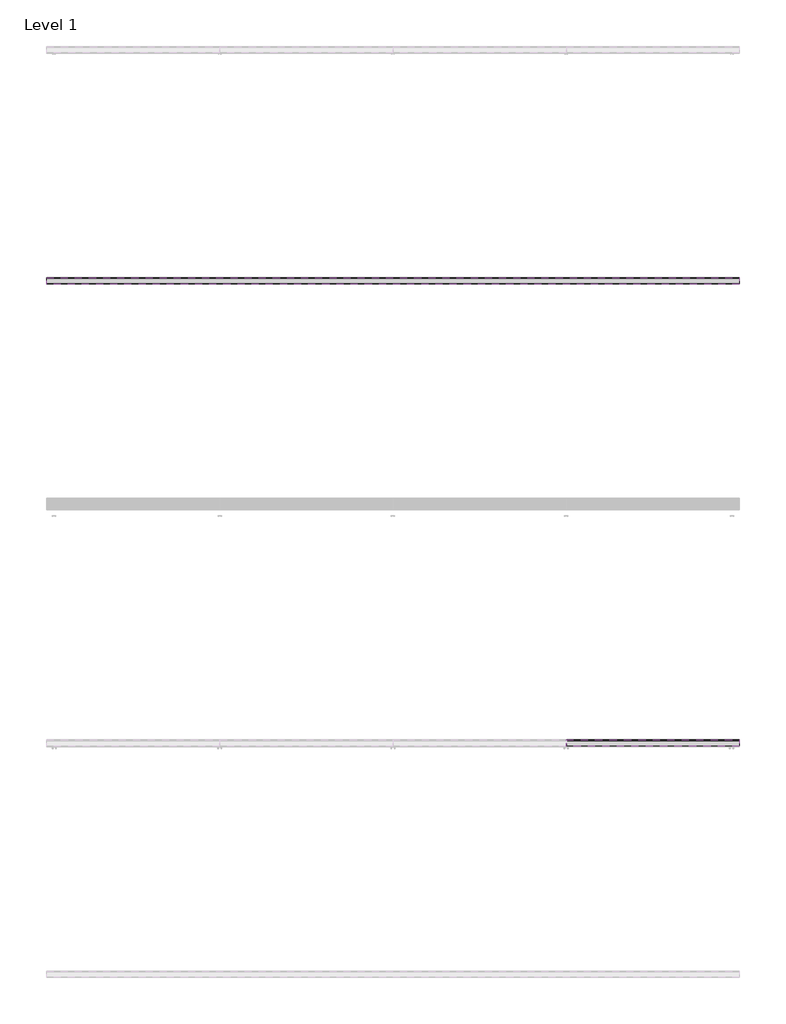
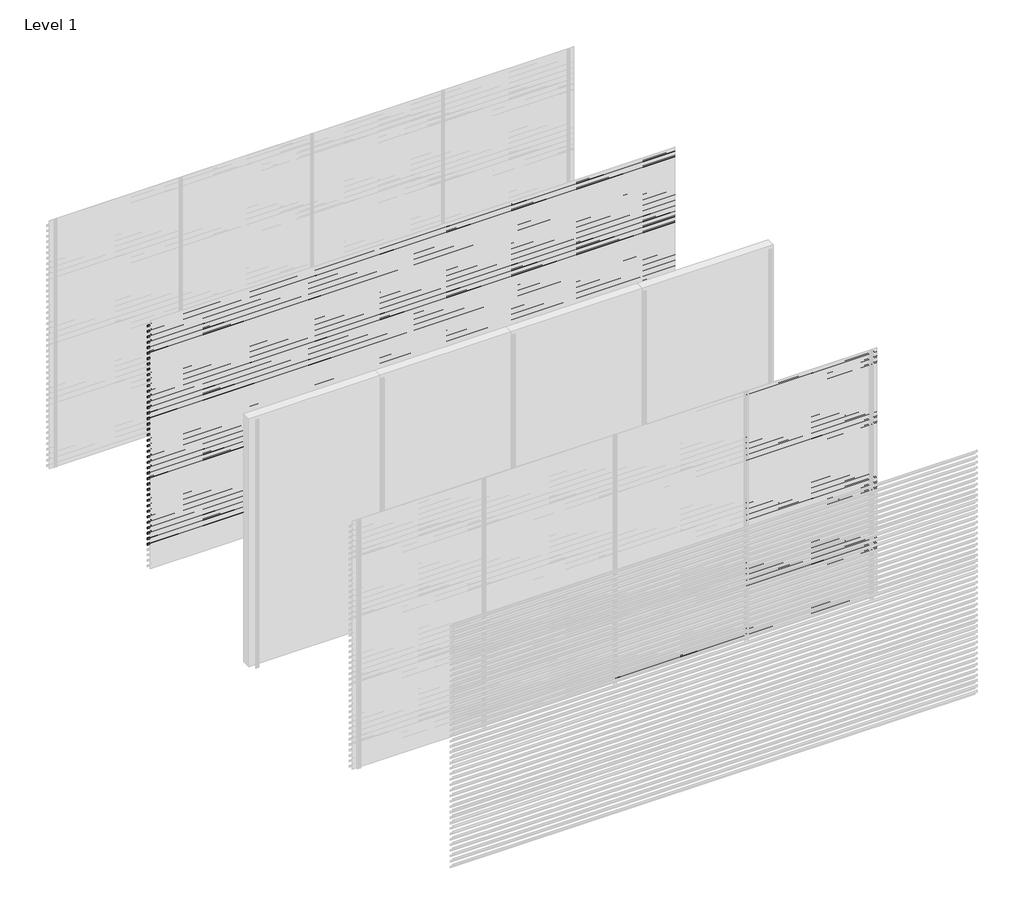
# One storey, part 23 of 25: 87 proxies.
"""IFC4 building model written with IfcOpenShell, lengths in millimetres."""

from ifc_helpers import new_model, si_unit, frame, origin, place, context, project, spatial, polyline, outline, extrude, element, save

model = new_model("IFC4")

# Units and contexts
model_context = context("Model", 3, world=origin())
ifc_project = project(units=[si_unit("LENGTHUNIT", "METRE", prefix="MILLI")], contexts=[model_context])

# Site, building, storey
site = spatial("IfcSite", under=ifc_project)
building = spatial("IfcBuilding", under=site)
storey = spatial("IfcBuildingStorey", under=building, Name="Level 1", Elevation=0.0)

# Proxies
placement = place(None, origin())
element("IfcBuildingElementProxy", 1, Name="Wall Sweeps", at=placement, inside=storey, context=model_context, shape_type="SweptSolid", body=[
    extrude(outline(polyline([(-1943.0, 2913.5), (-1943.0, 2893.5), (-1944.25, 2894.2216933), (-1944.25, 2912.7872415), (-1998.0, 2950.3158044), (-1998.0, 2970.0), (-1996.75, 2970.0), (-1996.75, 2951.0285629), (-1943.0, 2913.5)])), frame((0.0, 0.0, 0.0), z_axis=(1.0, 0.0, 0.0), x_axis=(0.0, 1.0, 0.0)), (0.0, 0.0, 1.0), 6000.0),
])
element("IfcBuildingElementProxy", 2, Name="Wall Sweeps", at=placement, inside=storey, context=model_context, shape_type="SweptSolid", body=[
    extrude(outline(polyline([(-1943.0, 2847.5), (-1943.0, 2827.5), (-1944.25, 2828.2216933), (-1944.25, 2846.7872415), (-1998.0, 2884.3158044), (-1998.0, 2904.0), (-1996.75, 2904.0), (-1996.75, 2885.0285629), (-1943.0, 2847.5)])), frame((0.0, 0.0, 0.0), z_axis=(1.0, 0.0, 0.0), x_axis=(0.0, 1.0, 0.0)), (0.0, 0.0, 1.0), 6000.0),
])
element("IfcBuildingElementProxy", 3, Name="Wall Sweeps", at=placement, inside=storey, context=model_context, shape_type="SweptSolid", body=[
    extrude(outline(polyline([(-1943.0, 2781.5), (-1943.0, 2761.5), (-1944.25, 2762.2216933), (-1944.25, 2780.7872415), (-1998.0, 2818.3158044), (-1998.0, 2838.0), (-1996.75, 2838.0), (-1996.75, 2819.0285629), (-1943.0, 2781.5)])), frame((0.0, 0.0, 0.0), z_axis=(1.0, 0.0, 0.0), x_axis=(0.0, 1.0, 0.0)), (0.0, 0.0, 1.0), 6000.0),
])
element("IfcBuildingElementProxy", 4, Name="Wall Sweeps", at=placement, inside=storey, context=model_context, shape_type="SweptSolid", body=[
    extrude(outline(polyline([(-1943.0, 2715.5), (-1943.0, 2695.5), (-1944.25, 2696.2216933), (-1944.25, 2714.7872415), (-1998.0, 2752.3158044), (-1998.0, 2772.0), (-1996.75, 2772.0), (-1996.75, 2753.0285629), (-1943.0, 2715.5)])), frame((0.0, 0.0, 0.0), z_axis=(1.0, 0.0, 0.0), x_axis=(0.0, 1.0, 0.0)), (0.0, 0.0, 1.0), 6000.0),
])
element("IfcBuildingElementProxy", 5, Name="Wall Sweeps", at=placement, inside=storey, context=model_context, shape_type="SweptSolid", body=[
    extrude(outline(polyline([(-1943.0, 2649.5), (-1943.0, 2629.5), (-1944.25, 2630.2216933), (-1944.25, 2648.7872415), (-1998.0, 2686.3158044), (-1998.0, 2706.0), (-1996.75, 2706.0), (-1996.75, 2687.0285629), (-1943.0, 2649.5)])), frame((0.0, 0.0, 0.0), z_axis=(1.0, 0.0, 0.0), x_axis=(0.0, 1.0, 0.0)), (0.0, 0.0, 1.0), 6000.0),
])
element("IfcBuildingElementProxy", 6, Name="Wall Sweeps", at=placement, inside=storey, context=model_context, shape_type="SweptSolid", body=[
    extrude(outline(polyline([(-1943.0, 2583.5), (-1943.0, 2563.5), (-1944.25, 2564.2216933), (-1944.25, 2582.7872415), (-1998.0, 2620.3158044), (-1998.0, 2640.0), (-1996.75, 2640.0), (-1996.75, 2621.0285629), (-1943.0, 2583.5)])), frame((0.0, 0.0, 0.0), z_axis=(1.0, 0.0, 0.0), x_axis=(0.0, 1.0, 0.0)), (0.0, 0.0, 1.0), 6000.0),
])
element("IfcBuildingElementProxy", 7, Name="Wall Sweeps", at=placement, inside=storey, context=model_context, shape_type="SweptSolid", body=[
    extrude(outline(polyline([(-1943.0, 2517.5), (-1943.0, 2497.5), (-1944.25, 2498.2216933), (-1944.25, 2516.7872415), (-1998.0, 2554.3158044), (-1998.0, 2574.0), (-1996.75, 2574.0), (-1996.75, 2555.0285629), (-1943.0, 2517.5)])), frame((0.0, 0.0, 0.0), z_axis=(1.0, 0.0, 0.0), x_axis=(0.0, 1.0, 0.0)), (0.0, 0.0, 1.0), 6000.0),
])
element("IfcBuildingElementProxy", 8, Name="Wall Sweeps", at=placement, inside=storey, context=model_context, shape_type="SweptSolid", body=[
    extrude(outline(polyline([(-1943.0, 2451.5), (-1943.0, 2431.5), (-1944.25, 2432.2216933), (-1944.25, 2450.7872415), (-1998.0, 2488.3158044), (-1998.0, 2508.0), (-1996.75, 2508.0), (-1996.75, 2489.0285629), (-1943.0, 2451.5)])), frame((0.0, 0.0, 0.0), z_axis=(1.0, 0.0, 0.0), x_axis=(0.0, 1.0, 0.0)), (0.0, 0.0, 1.0), 6000.0),
])
element("IfcBuildingElementProxy", 9, Name="Wall Sweeps", at=placement, inside=storey, context=model_context, shape_type="SweptSolid", body=[
    extrude(outline(polyline([(-1943.0, 2385.5), (-1943.0, 2365.5), (-1944.25, 2366.2216933), (-1944.25, 2384.7872415), (-1998.0, 2422.3158044), (-1998.0, 2442.0), (-1996.75, 2442.0), (-1996.75, 2423.0285629), (-1943.0, 2385.5)])), frame((0.0, 0.0, 0.0), z_axis=(1.0, 0.0, 0.0), x_axis=(0.0, 1.0, 0.0)), (0.0, 0.0, 1.0), 6000.0),
])
element("IfcBuildingElementProxy", 10, Name="Wall Sweeps", at=placement, inside=storey, context=model_context, shape_type="SweptSolid", body=[
    extrude(outline(polyline([(-1943.0, 2319.5), (-1943.0, 2299.5), (-1944.25, 2300.2216933), (-1944.25, 2318.7872415), (-1998.0, 2356.3158044), (-1998.0, 2376.0), (-1996.75, 2376.0), (-1996.75, 2357.0285629), (-1943.0, 2319.5)])), frame((0.0, 0.0, 0.0), z_axis=(1.0, 0.0, 0.0), x_axis=(0.0, 1.0, 0.0)), (0.0, 0.0, 1.0), 6000.0),
])
element("IfcBuildingElementProxy", 11, Name="Wall Sweeps", at=placement, inside=storey, context=model_context, shape_type="SweptSolid", body=[
    extrude(outline(polyline([(-1943.0, 2253.5), (-1943.0, 2233.5), (-1944.25, 2234.2216933), (-1944.25, 2252.7872415), (-1998.0, 2290.3158044), (-1998.0, 2310.0), (-1996.75, 2310.0), (-1996.75, 2291.0285629), (-1943.0, 2253.5)])), frame((0.0, 0.0, 0.0), z_axis=(1.0, 0.0, 0.0), x_axis=(0.0, 1.0, 0.0)), (0.0, 0.0, 1.0), 6000.0),
])
element("IfcBuildingElementProxy", 12, Name="Wall Sweeps", at=placement, inside=storey, context=model_context, shape_type="SweptSolid", body=[
    extrude(outline(polyline([(-1943.0, 2187.5), (-1943.0, 2167.5), (-1944.25, 2168.2216933), (-1944.25, 2186.7872415), (-1998.0, 2224.3158044), (-1998.0, 2244.0), (-1996.75, 2244.0), (-1996.75, 2225.0285629), (-1943.0, 2187.5)])), frame((0.0, 0.0, 0.0), z_axis=(1.0, 0.0, 0.0), x_axis=(0.0, 1.0, 0.0)), (0.0, 0.0, 1.0), 6000.0),
])
element("IfcBuildingElementProxy", 13, Name="Wall Sweeps", at=placement, inside=storey, context=model_context, shape_type="SweptSolid", body=[
    extrude(outline(polyline([(-1943.0, 2121.5), (-1943.0, 2101.5), (-1944.25, 2102.2216933), (-1944.25, 2120.7872415), (-1998.0, 2158.3158044), (-1998.0, 2178.0), (-1996.75, 2178.0), (-1996.75, 2159.0285629), (-1943.0, 2121.5)])), frame((0.0, 0.0, 0.0), z_axis=(1.0, 0.0, 0.0), x_axis=(0.0, 1.0, 0.0)), (0.0, 0.0, 1.0), 6000.0),
])
element("IfcBuildingElementProxy", 14, Name="Wall Sweeps", at=placement, inside=storey, context=model_context, shape_type="SweptSolid", body=[
    extrude(outline(polyline([(-1943.0, 2055.5), (-1943.0, 2035.5), (-1944.25, 2036.2216933), (-1944.25, 2054.7872415), (-1998.0, 2092.3158044), (-1998.0, 2112.0), (-1996.75, 2112.0), (-1996.75, 2093.0285629), (-1943.0, 2055.5)])), frame((0.0, 0.0, 0.0), z_axis=(1.0, 0.0, 0.0), x_axis=(0.0, 1.0, 0.0)), (0.0, 0.0, 1.0), 6000.0),
])
element("IfcBuildingElementProxy", 15, Name="Wall Sweeps", at=placement, inside=storey, context=model_context, shape_type="SweptSolid", body=[
    extrude(outline(polyline([(-1943.0, 1989.5), (-1943.0, 1969.5), (-1944.25, 1970.2216933), (-1944.25, 1988.7872415), (-1998.0, 2026.3158044), (-1998.0, 2046.0), (-1996.75, 2046.0), (-1996.75, 2027.0285629), (-1943.0, 1989.5)])), frame((0.0, 0.0, 0.0), z_axis=(1.0, 0.0, 0.0), x_axis=(0.0, 1.0, 0.0)), (0.0, 0.0, 1.0), 6000.0),
])
element("IfcBuildingElementProxy", 16, Name="Wall Sweeps", at=placement, inside=storey, context=model_context, shape_type="SweptSolid", body=[
    extrude(outline(polyline([(-1943.0, 1923.5), (-1943.0, 1903.5), (-1944.25, 1904.2216933), (-1944.25, 1922.7872415), (-1998.0, 1960.3158044), (-1998.0, 1980.0), (-1996.75, 1980.0), (-1996.75, 1961.0285629), (-1943.0, 1923.5)])), frame((0.0, 0.0, 0.0), z_axis=(1.0, 0.0, 0.0), x_axis=(0.0, 1.0, 0.0)), (0.0, 0.0, 1.0), 6000.0),
])
element("IfcBuildingElementProxy", 17, Name="Wall Sweeps", at=placement, inside=storey, context=model_context, shape_type="SweptSolid", body=[
    extrude(outline(polyline([(-1943.0, 1857.5), (-1943.0, 1837.5), (-1944.25, 1838.2216933), (-1944.25, 1856.7872415), (-1998.0, 1894.3158044), (-1998.0, 1914.0), (-1996.75, 1914.0), (-1996.75, 1895.0285629), (-1943.0, 1857.5)])), frame((0.0, 0.0, 0.0), z_axis=(1.0, 0.0, 0.0), x_axis=(0.0, 1.0, 0.0)), (0.0, 0.0, 1.0), 6000.0),
])
element("IfcBuildingElementProxy", 18, Name="Wall Sweeps", at=placement, inside=storey, context=model_context, shape_type="SweptSolid", body=[
    extrude(outline(polyline([(-1943.0, 1791.5), (-1943.0, 1771.5), (-1944.25, 1772.2216933), (-1944.25, 1790.7872415), (-1998.0, 1828.3158044), (-1998.0, 1848.0), (-1996.75, 1848.0), (-1996.75, 1829.0285629), (-1943.0, 1791.5)])), frame((0.0, 0.0, 0.0), z_axis=(1.0, 0.0, 0.0), x_axis=(0.0, 1.0, 0.0)), (0.0, 0.0, 1.0), 6000.0),
])
element("IfcBuildingElementProxy", 19, Name="Wall Sweeps", at=placement, inside=storey, context=model_context, shape_type="SweptSolid", body=[
    extrude(outline(polyline([(-1943.0, 1725.5), (-1943.0, 1705.5), (-1944.25, 1706.2216933), (-1944.25, 1724.7872415), (-1998.0, 1762.3158044), (-1998.0, 1782.0), (-1996.75, 1782.0), (-1996.75, 1763.0285629), (-1943.0, 1725.5)])), frame((0.0, 0.0, 0.0), z_axis=(1.0, 0.0, 0.0), x_axis=(0.0, 1.0, 0.0)), (0.0, 0.0, 1.0), 6000.0),
])
element("IfcBuildingElementProxy", 20, Name="Wall Sweeps", at=placement, inside=storey, context=model_context, shape_type="SweptSolid", body=[
    extrude(outline(polyline([(-1943.0, 1659.5), (-1943.0, 1639.5), (-1944.25, 1640.2216933), (-1944.25, 1658.7872415), (-1998.0, 1696.3158044), (-1998.0, 1716.0), (-1996.75, 1716.0), (-1996.75, 1697.0285629), (-1943.0, 1659.5)])), frame((0.0, 0.0, 0.0), z_axis=(1.0, 0.0, 0.0), x_axis=(0.0, 1.0, 0.0)), (0.0, 0.0, 1.0), 6000.0),
])
element("IfcBuildingElementProxy", 21, Name="Wall Sweeps", at=placement, inside=storey, context=model_context, shape_type="SweptSolid", body=[
    extrude(outline(polyline([(-1943.0, 1593.5), (-1943.0, 1573.5), (-1944.25, 1574.2216933), (-1944.25, 1592.7872415), (-1998.0, 1630.3158044), (-1998.0, 1650.0), (-1996.75, 1650.0), (-1996.75, 1631.0285629), (-1943.0, 1593.5)])), frame((0.0, 0.0, 0.0), z_axis=(1.0, 0.0, 0.0), x_axis=(0.0, 1.0, 0.0)), (0.0, 0.0, 1.0), 6000.0),
])
element("IfcBuildingElementProxy", 22, Name="Wall Sweeps", at=placement, inside=storey, context=model_context, shape_type="SweptSolid", body=[
    extrude(outline(polyline([(-1943.0, 1527.5), (-1943.0, 1507.5), (-1944.25, 1508.2216933), (-1944.25, 1526.7872415), (-1998.0, 1564.3158044), (-1998.0, 1584.0), (-1996.75, 1584.0), (-1996.75, 1565.0285629), (-1943.0, 1527.5)])), frame((0.0, 0.0, 0.0), z_axis=(1.0, 0.0, 0.0), x_axis=(0.0, 1.0, 0.0)), (0.0, 0.0, 1.0), 6000.0),
])
element("IfcBuildingElementProxy", 23, Name="Wall Sweeps", at=placement, inside=storey, context=model_context, shape_type="SweptSolid", body=[
    extrude(outline(polyline([(-1943.0, 1461.5), (-1943.0, 1441.5), (-1944.25, 1442.2216933), (-1944.25, 1460.7872415), (-1998.0, 1498.3158044), (-1998.0, 1518.0), (-1996.75, 1518.0), (-1996.75, 1499.0285629), (-1943.0, 1461.5)])), frame((0.0, 0.0, 0.0), z_axis=(1.0, 0.0, 0.0), x_axis=(0.0, 1.0, 0.0)), (0.0, 0.0, 1.0), 6000.0),
])
element("IfcBuildingElementProxy", 24, Name="Wall Sweeps", at=placement, inside=storey, context=model_context, shape_type="SweptSolid", body=[
    extrude(outline(polyline([(-1943.0, 1395.5), (-1943.0, 1375.5), (-1944.25, 1376.2216933), (-1944.25, 1394.7872415), (-1998.0, 1432.3158044), (-1998.0, 1452.0), (-1996.75, 1452.0), (-1996.75, 1433.0285629), (-1943.0, 1395.5)])), frame((0.0, 0.0, 0.0), z_axis=(1.0, 0.0, 0.0), x_axis=(0.0, 1.0, 0.0)), (0.0, 0.0, 1.0), 6000.0),
])
element("IfcBuildingElementProxy", 25, Name="Wall Sweeps", at=placement, inside=storey, context=model_context, shape_type="SweptSolid", body=[
    extrude(outline(polyline([(-1943.0, 1329.5), (-1943.0, 1309.5), (-1944.25, 1310.2216933), (-1944.25, 1328.7872415), (-1998.0, 1366.3158044), (-1998.0, 1386.0), (-1996.75, 1386.0), (-1996.75, 1367.0285629), (-1943.0, 1329.5)])), frame((0.0, 0.0, 0.0), z_axis=(1.0, 0.0, 0.0), x_axis=(0.0, 1.0, 0.0)), (0.0, 0.0, 1.0), 6000.0),
])
element("IfcBuildingElementProxy", 26, Name="Wall Sweeps", at=placement, inside=storey, context=model_context, shape_type="SweptSolid", body=[
    extrude(outline(polyline([(-1943.0, 1263.5), (-1943.0, 1243.5), (-1944.25, 1244.2216933), (-1944.25, 1262.7872415), (-1998.0, 1300.3158044), (-1998.0, 1320.0), (-1996.75, 1320.0), (-1996.75, 1301.0285629), (-1943.0, 1263.5)])), frame((0.0, 0.0, 0.0), z_axis=(1.0, 0.0, 0.0), x_axis=(0.0, 1.0, 0.0)), (0.0, 0.0, 1.0), 6000.0),
])
element("IfcBuildingElementProxy", 27, Name="Wall Sweeps", at=placement, inside=storey, context=model_context, shape_type="SweptSolid", body=[
    extrude(outline(polyline([(-1943.0, 1197.5), (-1943.0, 1177.5), (-1944.25, 1178.2216933), (-1944.25, 1196.7872415), (-1998.0, 1234.3158044), (-1998.0, 1254.0), (-1996.75, 1254.0), (-1996.75, 1235.0285629), (-1943.0, 1197.5)])), frame((0.0, 0.0, 0.0), z_axis=(1.0, 0.0, 0.0), x_axis=(0.0, 1.0, 0.0)), (0.0, 0.0, 1.0), 6000.0),
])
element("IfcBuildingElementProxy", 28, Name="Wall Sweeps", at=placement, inside=storey, context=model_context, shape_type="SweptSolid", body=[
    extrude(outline(polyline([(-1943.0, 1131.5), (-1943.0, 1111.5), (-1944.25, 1112.2216933), (-1944.25, 1130.7872415), (-1998.0, 1168.3158044), (-1998.0, 1188.0), (-1996.75, 1188.0), (-1996.75, 1169.0285629), (-1943.0, 1131.5)])), frame((0.0, 0.0, 0.0), z_axis=(1.0, 0.0, 0.0), x_axis=(0.0, 1.0, 0.0)), (0.0, 0.0, 1.0), 6000.0),
])
element("IfcBuildingElementProxy", 29, Name="Wall Sweeps", at=placement, inside=storey, context=model_context, shape_type="SweptSolid", body=[
    extrude(outline(polyline([(-1943.0, 1065.5), (-1943.0, 1045.5), (-1944.25, 1046.2216933), (-1944.25, 1064.7872415), (-1998.0, 1102.3158044), (-1998.0, 1122.0), (-1996.75, 1122.0), (-1996.75, 1103.0285629), (-1943.0, 1065.5)])), frame((0.0, 0.0, 0.0), z_axis=(1.0, 0.0, 0.0), x_axis=(0.0, 1.0, 0.0)), (0.0, 0.0, 1.0), 6000.0),
])
element("IfcBuildingElementProxy", 30, Name="Wall Sweeps", at=placement, inside=storey, context=model_context, shape_type="SweptSolid", body=[
    extrude(outline(polyline([(-1943.0, 999.5), (-1943.0, 979.5), (-1944.25, 980.2216933), (-1944.25, 998.7872415), (-1998.0, 1036.3158044), (-1998.0, 1056.0), (-1996.75, 1056.0), (-1996.75, 1037.0285629), (-1943.0, 999.5)])), frame((0.0, 0.0, 0.0), z_axis=(1.0, 0.0, 0.0), x_axis=(0.0, 1.0, 0.0)), (0.0, 0.0, 1.0), 6000.0),
])
element("IfcBuildingElementProxy", 31, Name="Wall Sweeps", at=placement, inside=storey, context=model_context, shape_type="SweptSolid", body=[
    extrude(outline(polyline([(-1943.0, 933.5), (-1943.0, 913.5), (-1944.25, 914.2216933), (-1944.25, 932.7872415), (-1998.0, 970.3158044), (-1998.0, 990.0), (-1996.75, 990.0), (-1996.75, 971.0285629), (-1943.0, 933.5)])), frame((0.0, 0.0, 0.0), z_axis=(1.0, 0.0, 0.0), x_axis=(0.0, 1.0, 0.0)), (0.0, 0.0, 1.0), 6000.0),
])
element("IfcBuildingElementProxy", 32, Name="Wall Sweeps", at=placement, inside=storey, context=model_context, shape_type="SweptSolid", body=[
    extrude(outline(polyline([(-1943.0, 867.5), (-1943.0, 847.5), (-1944.25, 848.2216933), (-1944.25, 866.7872415), (-1998.0, 904.3158044), (-1998.0, 924.0), (-1996.75, 924.0), (-1996.75, 905.0285629), (-1943.0, 867.5)])), frame((0.0, 0.0, 0.0), z_axis=(1.0, 0.0, 0.0), x_axis=(0.0, 1.0, 0.0)), (0.0, 0.0, 1.0), 6000.0),
])
element("IfcBuildingElementProxy", 33, Name="Wall Sweeps", at=placement, inside=storey, context=model_context, shape_type="SweptSolid", body=[
    extrude(outline(polyline([(-1943.0, 801.5), (-1943.0, 781.5), (-1944.25, 782.2216933), (-1944.25, 800.7872415), (-1998.0, 838.3158044), (-1998.0, 858.0), (-1996.75, 858.0), (-1996.75, 839.0285629), (-1943.0, 801.5)])), frame((0.0, 0.0, 0.0), z_axis=(1.0, 0.0, 0.0), x_axis=(0.0, 1.0, 0.0)), (0.0, 0.0, 1.0), 6000.0),
])
element("IfcBuildingElementProxy", 34, Name="Wall Sweeps", at=placement, inside=storey, context=model_context, shape_type="SweptSolid", body=[
    extrude(outline(polyline([(-1943.0, 735.5), (-1943.0, 715.5), (-1944.25, 716.2216933), (-1944.25, 734.7872415), (-1998.0, 772.3158044), (-1998.0, 792.0), (-1996.75, 792.0), (-1996.75, 773.0285629), (-1943.0, 735.5)])), frame((0.0, 0.0, 0.0), z_axis=(1.0, 0.0, 0.0), x_axis=(0.0, 1.0, 0.0)), (0.0, 0.0, 1.0), 6000.0),
])
element("IfcBuildingElementProxy", 35, Name="Wall Sweeps", at=placement, inside=storey, context=model_context, shape_type="SweptSolid", body=[
    extrude(outline(polyline([(-1943.0, 669.5), (-1943.0, 649.5), (-1944.25, 650.2216933), (-1944.25, 668.7872415), (-1998.0, 706.3158044), (-1998.0, 726.0), (-1996.75, 726.0), (-1996.75, 707.0285629), (-1943.0, 669.5)])), frame((0.0, 0.0, 0.0), z_axis=(1.0, 0.0, 0.0), x_axis=(0.0, 1.0, 0.0)), (0.0, 0.0, 1.0), 6000.0),
])
element("IfcBuildingElementProxy", 36, Name="Wall Sweeps", at=placement, inside=storey, context=model_context, shape_type="SweptSolid", body=[
    extrude(outline(polyline([(-1943.0, 603.5), (-1943.0, 583.5), (-1944.25, 584.2216933), (-1944.25, 602.7872415), (-1998.0, 640.3158044), (-1998.0, 660.0), (-1996.75, 660.0), (-1996.75, 641.0285629), (-1943.0, 603.5)])), frame((0.0, 0.0, 0.0), z_axis=(1.0, 0.0, 0.0), x_axis=(0.0, 1.0, 0.0)), (0.0, 0.0, 1.0), 6000.0),
])
element("IfcBuildingElementProxy", 37, Name="Wall Sweeps", at=placement, inside=storey, context=model_context, shape_type="SweptSolid", body=[
    extrude(outline(polyline([(-1943.0, 537.5), (-1943.0, 517.5), (-1944.25, 518.2216933), (-1944.25, 536.7872415), (-1998.0, 574.3158044), (-1998.0, 594.0), (-1996.75, 594.0), (-1996.75, 575.0285629), (-1943.0, 537.5)])), frame((0.0, 0.0, 0.0), z_axis=(1.0, 0.0, 0.0), x_axis=(0.0, 1.0, 0.0)), (0.0, 0.0, 1.0), 6000.0),
])
element("IfcBuildingElementProxy", 38, Name="Wall Sweeps", at=placement, inside=storey, context=model_context, shape_type="SweptSolid", body=[
    extrude(outline(polyline([(-1943.0, 471.5), (-1943.0, 451.5), (-1944.25, 452.2216933), (-1944.25, 470.7872415), (-1998.0, 508.3158044), (-1998.0, 528.0), (-1996.75, 528.0), (-1996.75, 509.0285629), (-1943.0, 471.5)])), frame((0.0, 0.0, 0.0), z_axis=(1.0, 0.0, 0.0), x_axis=(0.0, 1.0, 0.0)), (0.0, 0.0, 1.0), 6000.0),
])
element("IfcBuildingElementProxy", 39, Name="Wall Sweeps", at=placement, inside=storey, context=model_context, shape_type="SweptSolid", body=[
    extrude(outline(polyline([(-1943.0, 405.5), (-1943.0, 385.5), (-1944.25, 386.2216933), (-1944.25, 404.7872415), (-1998.0, 442.3158044), (-1998.0, 462.0), (-1996.75, 462.0), (-1996.75, 443.0285629), (-1943.0, 405.5)])), frame((0.0, 0.0, 0.0), z_axis=(1.0, 0.0, 0.0), x_axis=(0.0, 1.0, 0.0)), (0.0, 0.0, 1.0), 6000.0),
])
element("IfcBuildingElementProxy", 40, Name="Wall Sweeps", at=placement, inside=storey, context=model_context, shape_type="SweptSolid", body=[
    extrude(outline(polyline([(-1943.0, 339.5), (-1943.0, 319.5), (-1944.25, 320.2216933), (-1944.25, 338.7872415), (-1998.0, 376.3158044), (-1998.0, 396.0), (-1996.75, 396.0), (-1996.75, 377.0285629), (-1943.0, 339.5)])), frame((0.0, 0.0, 0.0), z_axis=(1.0, 0.0, 0.0), x_axis=(0.0, 1.0, 0.0)), (0.0, 0.0, 1.0), 6000.0),
])
element("IfcBuildingElementProxy", 41, Name="Wall Sweeps", at=placement, inside=storey, context=model_context, shape_type="SweptSolid", body=[
    extrude(outline(polyline([(-1943.0, 273.5), (-1943.0, 253.5), (-1944.25, 254.2216933), (-1944.25, 272.7872415), (-1998.0, 310.3158044), (-1998.0, 330.0), (-1996.75, 330.0), (-1996.75, 311.0285629), (-1943.0, 273.5)])), frame((0.0, 0.0, 0.0), z_axis=(1.0, 0.0, 0.0), x_axis=(0.0, 1.0, 0.0)), (0.0, 0.0, 1.0), 6000.0),
])
element("IfcBuildingElementProxy", 42, Name="Wall Sweeps", at=placement, inside=storey, context=model_context, shape_type="SweptSolid", body=[
    extrude(outline(polyline([(-5943.0, 9.5), (-5943.0, -10.5), (-5944.25, -9.7783067), (-5944.25, 8.7872415), (-5998.0, 46.3158044), (-5998.0, 66.0), (-5996.75, 66.0), (-5996.75, 47.0285629), (-5943.0, 9.5)])), frame((3000.0, 0.0, 0.0), z_axis=(1.0, 0.0, 0.0), x_axis=(0.0, 1.0, 0.0)), (0.0, 0.0, 1.0), 1500.0),
])
element("IfcBuildingElementProxy", 43, Name="Wall Sweeps", at=placement, inside=storey, context=model_context, shape_type="SweptSolid", body=[
    extrude(outline(polyline([(-5943.0, 2913.5), (-5943.0, 2893.5), (-5944.25, 2894.2216933), (-5944.25, 2912.7872415), (-5998.0, 2950.3158044), (-5998.0, 2970.0), (-5996.75, 2970.0), (-5996.75, 2951.0285629), (-5943.0, 2913.5)])), frame((4500.0, 0.0, 0.0), z_axis=(1.0, 0.0, 0.0), x_axis=(0.0, 1.0, 0.0)), (0.0, 0.0, 1.0), 1500.0),
])
element("IfcBuildingElementProxy", 44, Name="Wall Sweeps", at=placement, inside=storey, context=model_context, shape_type="SweptSolid", body=[
    extrude(outline(polyline([(-5943.0, 2847.5), (-5943.0, 2827.5), (-5944.25, 2828.2216933), (-5944.25, 2846.7872415), (-5998.0, 2884.3158044), (-5998.0, 2904.0), (-5996.75, 2904.0), (-5996.75, 2885.0285629), (-5943.0, 2847.5)])), frame((4500.0, 0.0, 0.0), z_axis=(1.0, 0.0, 0.0), x_axis=(0.0, 1.0, 0.0)), (0.0, 0.0, 1.0), 1500.0),
])
element("IfcBuildingElementProxy", 45, Name="Wall Sweeps", at=placement, inside=storey, context=model_context, shape_type="SweptSolid", body=[
    extrude(outline(polyline([(-5943.0, 2781.5), (-5943.0, 2761.5), (-5944.25, 2762.2216933), (-5944.25, 2780.7872415), (-5998.0, 2818.3158044), (-5998.0, 2838.0), (-5996.75, 2838.0), (-5996.75, 2819.0285629), (-5943.0, 2781.5)])), frame((4500.0, 0.0, 0.0), z_axis=(1.0, 0.0, 0.0), x_axis=(0.0, 1.0, 0.0)), (0.0, 0.0, 1.0), 1500.0),
])
element("IfcBuildingElementProxy", 46, Name="Wall Sweeps", at=placement, inside=storey, context=model_context, shape_type="SweptSolid", body=[
    extrude(outline(polyline([(-5943.0, 2715.5), (-5943.0, 2695.5), (-5944.25, 2696.2216933), (-5944.25, 2714.7872415), (-5998.0, 2752.3158044), (-5998.0, 2772.0), (-5996.75, 2772.0), (-5996.75, 2753.0285629), (-5943.0, 2715.5)])), frame((4500.0, 0.0, 0.0), z_axis=(1.0, 0.0, 0.0), x_axis=(0.0, 1.0, 0.0)), (0.0, 0.0, 1.0), 1500.0),
])
element("IfcBuildingElementProxy", 47, Name="Wall Sweeps", at=placement, inside=storey, context=model_context, shape_type="SweptSolid", body=[
    extrude(outline(polyline([(-5943.0, 2649.5), (-5943.0, 2629.5), (-5944.25, 2630.2216933), (-5944.25, 2648.7872415), (-5998.0, 2686.3158044), (-5998.0, 2706.0), (-5996.75, 2706.0), (-5996.75, 2687.0285629), (-5943.0, 2649.5)])), frame((4500.0, 0.0, 0.0), z_axis=(1.0, 0.0, 0.0), x_axis=(0.0, 1.0, 0.0)), (0.0, 0.0, 1.0), 1500.0),
])
element("IfcBuildingElementProxy", 48, Name="Wall Sweeps", at=placement, inside=storey, context=model_context, shape_type="SweptSolid", body=[
    extrude(outline(polyline([(-5943.0, 2583.5), (-5943.0, 2563.5), (-5944.25, 2564.2216933), (-5944.25, 2582.7872415), (-5998.0, 2620.3158044), (-5998.0, 2640.0), (-5996.75, 2640.0), (-5996.75, 2621.0285629), (-5943.0, 2583.5)])), frame((4500.0, 0.0, 0.0), z_axis=(1.0, 0.0, 0.0), x_axis=(0.0, 1.0, 0.0)), (0.0, 0.0, 1.0), 1500.0),
])
element("IfcBuildingElementProxy", 49, Name="Wall Sweeps", at=placement, inside=storey, context=model_context, shape_type="SweptSolid", body=[
    extrude(outline(polyline([(-5943.0, 2517.5), (-5943.0, 2497.5), (-5944.25, 2498.2216933), (-5944.25, 2516.7872415), (-5998.0, 2554.3158044), (-5998.0, 2574.0), (-5996.75, 2574.0), (-5996.75, 2555.0285629), (-5943.0, 2517.5)])), frame((4500.0, 0.0, 0.0), z_axis=(1.0, 0.0, 0.0), x_axis=(0.0, 1.0, 0.0)), (0.0, 0.0, 1.0), 1500.0),
])
element("IfcBuildingElementProxy", 50, Name="Wall Sweeps", at=placement, inside=storey, context=model_context, shape_type="SweptSolid", body=[
    extrude(outline(polyline([(-5943.0, 2451.5), (-5943.0, 2431.5), (-5944.25, 2432.2216933), (-5944.25, 2450.7872415), (-5998.0, 2488.3158044), (-5998.0, 2508.0), (-5996.75, 2508.0), (-5996.75, 2489.0285629), (-5943.0, 2451.5)])), frame((4500.0, 0.0, 0.0), z_axis=(1.0, 0.0, 0.0), x_axis=(0.0, 1.0, 0.0)), (0.0, 0.0, 1.0), 1500.0),
])
element("IfcBuildingElementProxy", 51, Name="Wall Sweeps", at=placement, inside=storey, context=model_context, shape_type="SweptSolid", body=[
    extrude(outline(polyline([(-5943.0, 2385.5), (-5943.0, 2365.5), (-5944.25, 2366.2216933), (-5944.25, 2384.7872415), (-5998.0, 2422.3158044), (-5998.0, 2442.0), (-5996.75, 2442.0), (-5996.75, 2423.0285629), (-5943.0, 2385.5)])), frame((4500.0, 0.0, 0.0), z_axis=(1.0, 0.0, 0.0), x_axis=(0.0, 1.0, 0.0)), (0.0, 0.0, 1.0), 1500.0),
])
element("IfcBuildingElementProxy", 52, Name="Wall Sweeps", at=placement, inside=storey, context=model_context, shape_type="SweptSolid", body=[
    extrude(outline(polyline([(-5943.0, 2319.5), (-5943.0, 2299.5), (-5944.25, 2300.2216933), (-5944.25, 2318.7872415), (-5998.0, 2356.3158044), (-5998.0, 2376.0), (-5996.75, 2376.0), (-5996.75, 2357.0285629), (-5943.0, 2319.5)])), frame((4500.0, 0.0, 0.0), z_axis=(1.0, 0.0, 0.0), x_axis=(0.0, 1.0, 0.0)), (0.0, 0.0, 1.0), 1500.0),
])
element("IfcBuildingElementProxy", 53, Name="Wall Sweeps", at=placement, inside=storey, context=model_context, shape_type="SweptSolid", body=[
    extrude(outline(polyline([(-5943.0, 2253.5), (-5943.0, 2233.5), (-5944.25, 2234.2216933), (-5944.25, 2252.7872415), (-5998.0, 2290.3158044), (-5998.0, 2310.0), (-5996.75, 2310.0), (-5996.75, 2291.0285629), (-5943.0, 2253.5)])), frame((4500.0, 0.0, 0.0), z_axis=(1.0, 0.0, 0.0), x_axis=(0.0, 1.0, 0.0)), (0.0, 0.0, 1.0), 1500.0),
])
element("IfcBuildingElementProxy", 54, Name="Wall Sweeps", at=placement, inside=storey, context=model_context, shape_type="SweptSolid", body=[
    extrude(outline(polyline([(-5943.0, 2187.5), (-5943.0, 2167.5), (-5944.25, 2168.2216933), (-5944.25, 2186.7872415), (-5998.0, 2224.3158044), (-5998.0, 2244.0), (-5996.75, 2244.0), (-5996.75, 2225.0285629), (-5943.0, 2187.5)])), frame((4500.0, 0.0, 0.0), z_axis=(1.0, 0.0, 0.0), x_axis=(0.0, 1.0, 0.0)), (0.0, 0.0, 1.0), 1500.0),
])
element("IfcBuildingElementProxy", 55, Name="Wall Sweeps", at=placement, inside=storey, context=model_context, shape_type="SweptSolid", body=[
    extrude(outline(polyline([(-5943.0, 2121.5), (-5943.0, 2101.5), (-5944.25, 2102.2216933), (-5944.25, 2120.7872415), (-5998.0, 2158.3158044), (-5998.0, 2178.0), (-5996.75, 2178.0), (-5996.75, 2159.0285629), (-5943.0, 2121.5)])), frame((4500.0, 0.0, 0.0), z_axis=(1.0, 0.0, 0.0), x_axis=(0.0, 1.0, 0.0)), (0.0, 0.0, 1.0), 1500.0),
])
element("IfcBuildingElementProxy", 56, Name="Wall Sweeps", at=placement, inside=storey, context=model_context, shape_type="SweptSolid", body=[
    extrude(outline(polyline([(-5943.0, 2055.5), (-5943.0, 2035.5), (-5944.25, 2036.2216933), (-5944.25, 2054.7872415), (-5998.0, 2092.3158044), (-5998.0, 2112.0), (-5996.75, 2112.0), (-5996.75, 2093.0285629), (-5943.0, 2055.5)])), frame((4500.0, 0.0, 0.0), z_axis=(1.0, 0.0, 0.0), x_axis=(0.0, 1.0, 0.0)), (0.0, 0.0, 1.0), 1500.0),
])
element("IfcBuildingElementProxy", 57, Name="Wall Sweeps", at=placement, inside=storey, context=model_context, shape_type="SweptSolid", body=[
    extrude(outline(polyline([(-5943.0, 1989.5), (-5943.0, 1969.5), (-5944.25, 1970.2216933), (-5944.25, 1988.7872415), (-5998.0, 2026.3158044), (-5998.0, 2046.0), (-5996.75, 2046.0), (-5996.75, 2027.0285629), (-5943.0, 1989.5)])), frame((4500.0, 0.0, 0.0), z_axis=(1.0, 0.0, 0.0), x_axis=(0.0, 1.0, 0.0)), (0.0, 0.0, 1.0), 1500.0),
])
element("IfcBuildingElementProxy", 58, Name="Wall Sweeps", at=placement, inside=storey, context=model_context, shape_type="SweptSolid", body=[
    extrude(outline(polyline([(-5943.0, 1923.5), (-5943.0, 1903.5), (-5944.25, 1904.2216933), (-5944.25, 1922.7872415), (-5998.0, 1960.3158044), (-5998.0, 1980.0), (-5996.75, 1980.0), (-5996.75, 1961.0285629), (-5943.0, 1923.5)])), frame((4500.0, 0.0, 0.0), z_axis=(1.0, 0.0, 0.0), x_axis=(0.0, 1.0, 0.0)), (0.0, 0.0, 1.0), 1500.0),
])
element("IfcBuildingElementProxy", 59, Name="Wall Sweeps", at=placement, inside=storey, context=model_context, shape_type="SweptSolid", body=[
    extrude(outline(polyline([(-5943.0, 1857.5), (-5943.0, 1837.5), (-5944.25, 1838.2216933), (-5944.25, 1856.7872415), (-5998.0, 1894.3158044), (-5998.0, 1914.0), (-5996.75, 1914.0), (-5996.75, 1895.0285629), (-5943.0, 1857.5)])), frame((4500.0, 0.0, 0.0), z_axis=(1.0, 0.0, 0.0), x_axis=(0.0, 1.0, 0.0)), (0.0, 0.0, 1.0), 1500.0),
])
element("IfcBuildingElementProxy", 60, Name="Wall Sweeps", at=placement, inside=storey, context=model_context, shape_type="SweptSolid", body=[
    extrude(outline(polyline([(-5943.0, 1791.5), (-5943.0, 1771.5), (-5944.25, 1772.2216933), (-5944.25, 1790.7872415), (-5998.0, 1828.3158044), (-5998.0, 1848.0), (-5996.75, 1848.0), (-5996.75, 1829.0285629), (-5943.0, 1791.5)])), frame((4500.0, 0.0, 0.0), z_axis=(1.0, 0.0, 0.0), x_axis=(0.0, 1.0, 0.0)), (0.0, 0.0, 1.0), 1500.0),
])
element("IfcBuildingElementProxy", 61, Name="Wall Sweeps", at=placement, inside=storey, context=model_context, shape_type="SweptSolid", body=[
    extrude(outline(polyline([(-5943.0, 1725.5), (-5943.0, 1705.5), (-5944.25, 1706.2216933), (-5944.25, 1724.7872415), (-5998.0, 1762.3158044), (-5998.0, 1782.0), (-5996.75, 1782.0), (-5996.75, 1763.0285629), (-5943.0, 1725.5)])), frame((4500.0, 0.0, 0.0), z_axis=(1.0, 0.0, 0.0), x_axis=(0.0, 1.0, 0.0)), (0.0, 0.0, 1.0), 1500.0),
])
element("IfcBuildingElementProxy", 62, Name="Wall Sweeps", at=placement, inside=storey, context=model_context, shape_type="SweptSolid", body=[
    extrude(outline(polyline([(-5943.0, 1659.5), (-5943.0, 1639.5), (-5944.25, 1640.2216933), (-5944.25, 1658.7872415), (-5998.0, 1696.3158044), (-5998.0, 1716.0), (-5996.75, 1716.0), (-5996.75, 1697.0285629), (-5943.0, 1659.5)])), frame((4500.0, 0.0, 0.0), z_axis=(1.0, 0.0, 0.0), x_axis=(0.0, 1.0, 0.0)), (0.0, 0.0, 1.0), 1500.0),
])
element("IfcBuildingElementProxy", 63, Name="Wall Sweeps", at=placement, inside=storey, context=model_context, shape_type="SweptSolid", body=[
    extrude(outline(polyline([(-5943.0, 1593.5), (-5943.0, 1573.5), (-5944.25, 1574.2216933), (-5944.25, 1592.7872415), (-5998.0, 1630.3158044), (-5998.0, 1650.0), (-5996.75, 1650.0), (-5996.75, 1631.0285629), (-5943.0, 1593.5)])), frame((4500.0, 0.0, 0.0), z_axis=(1.0, 0.0, 0.0), x_axis=(0.0, 1.0, 0.0)), (0.0, 0.0, 1.0), 1500.0),
])
element("IfcBuildingElementProxy", 64, Name="Wall Sweeps", at=placement, inside=storey, context=model_context, shape_type="SweptSolid", body=[
    extrude(outline(polyline([(-5943.0, 1527.5), (-5943.0, 1507.5), (-5944.25, 1508.2216933), (-5944.25, 1526.7872415), (-5998.0, 1564.3158044), (-5998.0, 1584.0), (-5996.75, 1584.0), (-5996.75, 1565.0285629), (-5943.0, 1527.5)])), frame((4500.0, 0.0, 0.0), z_axis=(1.0, 0.0, 0.0), x_axis=(0.0, 1.0, 0.0)), (0.0, 0.0, 1.0), 1500.0),
])
element("IfcBuildingElementProxy", 65, Name="Wall Sweeps", at=placement, inside=storey, context=model_context, shape_type="SweptSolid", body=[
    extrude(outline(polyline([(-5943.0, 1461.5), (-5943.0, 1441.5), (-5944.25, 1442.2216933), (-5944.25, 1460.7872415), (-5998.0, 1498.3158044), (-5998.0, 1518.0), (-5996.75, 1518.0), (-5996.75, 1499.0285629), (-5943.0, 1461.5)])), frame((4500.0, 0.0, 0.0), z_axis=(1.0, 0.0, 0.0), x_axis=(0.0, 1.0, 0.0)), (0.0, 0.0, 1.0), 1500.0),
])
element("IfcBuildingElementProxy", 66, Name="Wall Sweeps", at=placement, inside=storey, context=model_context, shape_type="SweptSolid", body=[
    extrude(outline(polyline([(-5943.0, 1395.5), (-5943.0, 1375.5), (-5944.25, 1376.2216933), (-5944.25, 1394.7872415), (-5998.0, 1432.3158044), (-5998.0, 1452.0), (-5996.75, 1452.0), (-5996.75, 1433.0285629), (-5943.0, 1395.5)])), frame((4500.0, 0.0, 0.0), z_axis=(1.0, 0.0, 0.0), x_axis=(0.0, 1.0, 0.0)), (0.0, 0.0, 1.0), 1500.0),
])
element("IfcBuildingElementProxy", 67, Name="Wall Sweeps", at=placement, inside=storey, context=model_context, shape_type="SweptSolid", body=[
    extrude(outline(polyline([(-5943.0, 1329.5), (-5943.0, 1309.5), (-5944.25, 1310.2216933), (-5944.25, 1328.7872415), (-5998.0, 1366.3158044), (-5998.0, 1386.0), (-5996.75, 1386.0), (-5996.75, 1367.0285629), (-5943.0, 1329.5)])), frame((4500.0, 0.0, 0.0), z_axis=(1.0, 0.0, 0.0), x_axis=(0.0, 1.0, 0.0)), (0.0, 0.0, 1.0), 1500.0),
])
element("IfcBuildingElementProxy", 68, Name="Wall Sweeps", at=placement, inside=storey, context=model_context, shape_type="SweptSolid", body=[
    extrude(outline(polyline([(-5943.0, 1263.5), (-5943.0, 1243.5), (-5944.25, 1244.2216933), (-5944.25, 1262.7872415), (-5998.0, 1300.3158044), (-5998.0, 1320.0), (-5996.75, 1320.0), (-5996.75, 1301.0285629), (-5943.0, 1263.5)])), frame((4500.0, 0.0, 0.0), z_axis=(1.0, 0.0, 0.0), x_axis=(0.0, 1.0, 0.0)), (0.0, 0.0, 1.0), 1500.0),
])
element("IfcBuildingElementProxy", 69, Name="Wall Sweeps", at=placement, inside=storey, context=model_context, shape_type="SweptSolid", body=[
    extrude(outline(polyline([(-5943.0, 1197.5), (-5943.0, 1177.5), (-5944.25, 1178.2216933), (-5944.25, 1196.7872415), (-5998.0, 1234.3158044), (-5998.0, 1254.0), (-5996.75, 1254.0), (-5996.75, 1235.0285629), (-5943.0, 1197.5)])), frame((4500.0, 0.0, 0.0), z_axis=(1.0, 0.0, 0.0), x_axis=(0.0, 1.0, 0.0)), (0.0, 0.0, 1.0), 1500.0),
])
element("IfcBuildingElementProxy", 70, Name="Wall Sweeps", at=placement, inside=storey, context=model_context, shape_type="SweptSolid", body=[
    extrude(outline(polyline([(-5943.0, 1131.5), (-5943.0, 1111.5), (-5944.25, 1112.2216933), (-5944.25, 1130.7872415), (-5998.0, 1168.3158044), (-5998.0, 1188.0), (-5996.75, 1188.0), (-5996.75, 1169.0285629), (-5943.0, 1131.5)])), frame((4500.0, 0.0, 0.0), z_axis=(1.0, 0.0, 0.0), x_axis=(0.0, 1.0, 0.0)), (0.0, 0.0, 1.0), 1500.0),
])
element("IfcBuildingElementProxy", 71, Name="Wall Sweeps", at=placement, inside=storey, context=model_context, shape_type="SweptSolid", body=[
    extrude(outline(polyline([(-5943.0, 1065.5), (-5943.0, 1045.5), (-5944.25, 1046.2216933), (-5944.25, 1064.7872415), (-5998.0, 1102.3158044), (-5998.0, 1122.0), (-5996.75, 1122.0), (-5996.75, 1103.0285629), (-5943.0, 1065.5)])), frame((4500.0, 0.0, 0.0), z_axis=(1.0, 0.0, 0.0), x_axis=(0.0, 1.0, 0.0)), (0.0, 0.0, 1.0), 1500.0),
])
element("IfcBuildingElementProxy", 72, Name="Wall Sweeps", at=placement, inside=storey, context=model_context, shape_type="SweptSolid", body=[
    extrude(outline(polyline([(-5943.0, 999.5), (-5943.0, 979.5), (-5944.25, 980.2216933), (-5944.25, 998.7872415), (-5998.0, 1036.3158044), (-5998.0, 1056.0), (-5996.75, 1056.0), (-5996.75, 1037.0285629), (-5943.0, 999.5)])), frame((4500.0, 0.0, 0.0), z_axis=(1.0, 0.0, 0.0), x_axis=(0.0, 1.0, 0.0)), (0.0, 0.0, 1.0), 1500.0),
])
element("IfcBuildingElementProxy", 73, Name="Wall Sweeps", at=placement, inside=storey, context=model_context, shape_type="SweptSolid", body=[
    extrude(outline(polyline([(-5943.0, 933.5), (-5943.0, 913.5), (-5944.25, 914.2216933), (-5944.25, 932.7872415), (-5998.0, 970.3158044), (-5998.0, 990.0), (-5996.75, 990.0), (-5996.75, 971.0285629), (-5943.0, 933.5)])), frame((4500.0, 0.0, 0.0), z_axis=(1.0, 0.0, 0.0), x_axis=(0.0, 1.0, 0.0)), (0.0, 0.0, 1.0), 1500.0),
])
element("IfcBuildingElementProxy", 74, Name="Wall Sweeps", at=placement, inside=storey, context=model_context, shape_type="SweptSolid", body=[
    extrude(outline(polyline([(-5943.0, 867.5), (-5943.0, 847.5), (-5944.25, 848.2216933), (-5944.25, 866.7872415), (-5998.0, 904.3158044), (-5998.0, 924.0), (-5996.75, 924.0), (-5996.75, 905.0285629), (-5943.0, 867.5)])), frame((4500.0, 0.0, 0.0), z_axis=(1.0, 0.0, 0.0), x_axis=(0.0, 1.0, 0.0)), (0.0, 0.0, 1.0), 1500.0),
])
element("IfcBuildingElementProxy", 75, Name="Wall Sweeps", at=placement, inside=storey, context=model_context, shape_type="SweptSolid", body=[
    extrude(outline(polyline([(-5943.0, 801.5), (-5943.0, 781.5), (-5944.25, 782.2216933), (-5944.25, 800.7872415), (-5998.0, 838.3158044), (-5998.0, 858.0), (-5996.75, 858.0), (-5996.75, 839.0285629), (-5943.0, 801.5)])), frame((4500.0, 0.0, 0.0), z_axis=(1.0, 0.0, 0.0), x_axis=(0.0, 1.0, 0.0)), (0.0, 0.0, 1.0), 1500.0),
])
element("IfcBuildingElementProxy", 76, Name="Wall Sweeps", at=placement, inside=storey, context=model_context, shape_type="SweptSolid", body=[
    extrude(outline(polyline([(-5943.0, 735.5), (-5943.0, 715.5), (-5944.25, 716.2216933), (-5944.25, 734.7872415), (-5998.0, 772.3158044), (-5998.0, 792.0), (-5996.75, 792.0), (-5996.75, 773.0285629), (-5943.0, 735.5)])), frame((4500.0, 0.0, 0.0), z_axis=(1.0, 0.0, 0.0), x_axis=(0.0, 1.0, 0.0)), (0.0, 0.0, 1.0), 1500.0),
])
element("IfcBuildingElementProxy", 77, Name="Wall Sweeps", at=placement, inside=storey, context=model_context, shape_type="SweptSolid", body=[
    extrude(outline(polyline([(-5943.0, 669.5), (-5943.0, 649.5), (-5944.25, 650.2216933), (-5944.25, 668.7872415), (-5998.0, 706.3158044), (-5998.0, 726.0), (-5996.75, 726.0), (-5996.75, 707.0285629), (-5943.0, 669.5)])), frame((4500.0, 0.0, 0.0), z_axis=(1.0, 0.0, 0.0), x_axis=(0.0, 1.0, 0.0)), (0.0, 0.0, 1.0), 1500.0),
])
element("IfcBuildingElementProxy", 78, Name="Wall Sweeps", at=placement, inside=storey, context=model_context, shape_type="SweptSolid", body=[
    extrude(outline(polyline([(-5943.0, 603.5), (-5943.0, 583.5), (-5944.25, 584.2216933), (-5944.25, 602.7872415), (-5998.0, 640.3158044), (-5998.0, 660.0), (-5996.75, 660.0), (-5996.75, 641.0285629), (-5943.0, 603.5)])), frame((4500.0, 0.0, 0.0), z_axis=(1.0, 0.0, 0.0), x_axis=(0.0, 1.0, 0.0)), (0.0, 0.0, 1.0), 1500.0),
])
element("IfcBuildingElementProxy", 79, Name="Wall Sweeps", at=placement, inside=storey, context=model_context, shape_type="SweptSolid", body=[
    extrude(outline(polyline([(-5943.0, 537.5), (-5943.0, 517.5), (-5944.25, 518.2216933), (-5944.25, 536.7872415), (-5998.0, 574.3158044), (-5998.0, 594.0), (-5996.75, 594.0), (-5996.75, 575.0285629), (-5943.0, 537.5)])), frame((4500.0, 0.0, 0.0), z_axis=(1.0, 0.0, 0.0), x_axis=(0.0, 1.0, 0.0)), (0.0, 0.0, 1.0), 1500.0),
])
element("IfcBuildingElementProxy", 80, Name="Wall Sweeps", at=placement, inside=storey, context=model_context, shape_type="SweptSolid", body=[
    extrude(outline(polyline([(-5943.0, 471.5), (-5943.0, 451.5), (-5944.25, 452.2216933), (-5944.25, 470.7872415), (-5998.0, 508.3158044), (-5998.0, 528.0), (-5996.75, 528.0), (-5996.75, 509.0285629), (-5943.0, 471.5)])), frame((4500.0, 0.0, 0.0), z_axis=(1.0, 0.0, 0.0), x_axis=(0.0, 1.0, 0.0)), (0.0, 0.0, 1.0), 1500.0),
])
element("IfcBuildingElementProxy", 81, Name="Wall Sweeps", at=placement, inside=storey, context=model_context, shape_type="SweptSolid", body=[
    extrude(outline(polyline([(-5943.0, 405.5), (-5943.0, 385.5), (-5944.25, 386.2216933), (-5944.25, 404.7872415), (-5998.0, 442.3158044), (-5998.0, 462.0), (-5996.75, 462.0), (-5996.75, 443.0285629), (-5943.0, 405.5)])), frame((4500.0, 0.0, 0.0), z_axis=(1.0, 0.0, 0.0), x_axis=(0.0, 1.0, 0.0)), (0.0, 0.0, 1.0), 1500.0),
])
element("IfcBuildingElementProxy", 82, Name="Wall Sweeps", at=placement, inside=storey, context=model_context, shape_type="SweptSolid", body=[
    extrude(outline(polyline([(-5943.0, 339.5), (-5943.0, 319.5), (-5944.25, 320.2216933), (-5944.25, 338.7872415), (-5998.0, 376.3158044), (-5998.0, 396.0), (-5996.75, 396.0), (-5996.75, 377.0285629), (-5943.0, 339.5)])), frame((4500.0, 0.0, 0.0), z_axis=(1.0, 0.0, 0.0), x_axis=(0.0, 1.0, 0.0)), (0.0, 0.0, 1.0), 1500.0),
])
element("IfcBuildingElementProxy", 83, Name="Wall Sweeps", at=placement, inside=storey, context=model_context, shape_type="SweptSolid", body=[
    extrude(outline(polyline([(-5943.0, 273.5), (-5943.0, 253.5), (-5944.25, 254.2216933), (-5944.25, 272.7872415), (-5998.0, 310.3158044), (-5998.0, 330.0), (-5996.75, 330.0), (-5996.75, 311.0285629), (-5943.0, 273.5)])), frame((4500.0, 0.0, 0.0), z_axis=(1.0, 0.0, 0.0), x_axis=(0.0, 1.0, 0.0)), (0.0, 0.0, 1.0), 1500.0),
])
element("IfcBuildingElementProxy", 84, Name="Wall Sweeps", at=placement, inside=storey, context=model_context, shape_type="SweptSolid", body=[
    extrude(outline(polyline([(-5943.0, 207.5), (-5943.0, 187.5), (-5944.25, 188.2216933), (-5944.25, 206.7872415), (-5998.0, 244.3158044), (-5998.0, 264.0), (-5996.75, 264.0), (-5996.75, 245.0285629), (-5943.0, 207.5)])), frame((4500.0, 0.0, 0.0), z_axis=(1.0, 0.0, 0.0), x_axis=(0.0, 1.0, 0.0)), (0.0, 0.0, 1.0), 1500.0),
])
element("IfcBuildingElementProxy", 85, Name="Wall Sweeps", at=placement, inside=storey, context=model_context, shape_type="SweptSolid", body=[
    extrude(outline(polyline([(-5943.0, 141.5), (-5943.0, 121.5), (-5944.25, 122.2216933), (-5944.25, 140.7872415), (-5998.0, 178.3158044), (-5998.0, 198.0), (-5996.75, 198.0), (-5996.75, 179.0285629), (-5943.0, 141.5)])), frame((4500.0, 0.0, 0.0), z_axis=(1.0, 0.0, 0.0), x_axis=(0.0, 1.0, 0.0)), (0.0, 0.0, 1.0), 1500.0),
])
element("IfcBuildingElementProxy", 86, Name="Wall Sweeps", at=placement, inside=storey, context=model_context, shape_type="SweptSolid", body=[
    extrude(outline(polyline([(-5943.0, 75.5), (-5943.0, 55.5), (-5944.25, 56.2216933), (-5944.25, 74.7872415), (-5998.0, 112.3158044), (-5998.0, 132.0), (-5996.75, 132.0), (-5996.75, 113.0285629), (-5943.0, 75.5)])), frame((4500.0, 0.0, 0.0), z_axis=(1.0, 0.0, 0.0), x_axis=(0.0, 1.0, 0.0)), (0.0, 0.0, 1.0), 1500.0),
])
element("IfcBuildingElementProxy", 87, Name="Wall Sweeps", at=placement, inside=storey, context=model_context, shape_type="SweptSolid", body=[
    extrude(outline(polyline([(-5943.0, 9.5), (-5943.0, -10.5), (-5944.25, -9.7783067), (-5944.25, 8.7872415), (-5998.0, 46.3158044), (-5998.0, 66.0), (-5996.75, 66.0), (-5996.75, 47.0285629), (-5943.0, 9.5)])), frame((4500.0, 0.0, 0.0), z_axis=(1.0, 0.0, 0.0), x_axis=(0.0, 1.0, 0.0)), (0.0, 0.0, 1.0), 1500.0),
])

save(model, "model.ifc")
